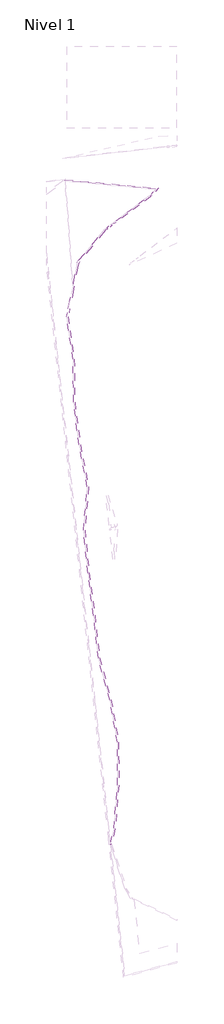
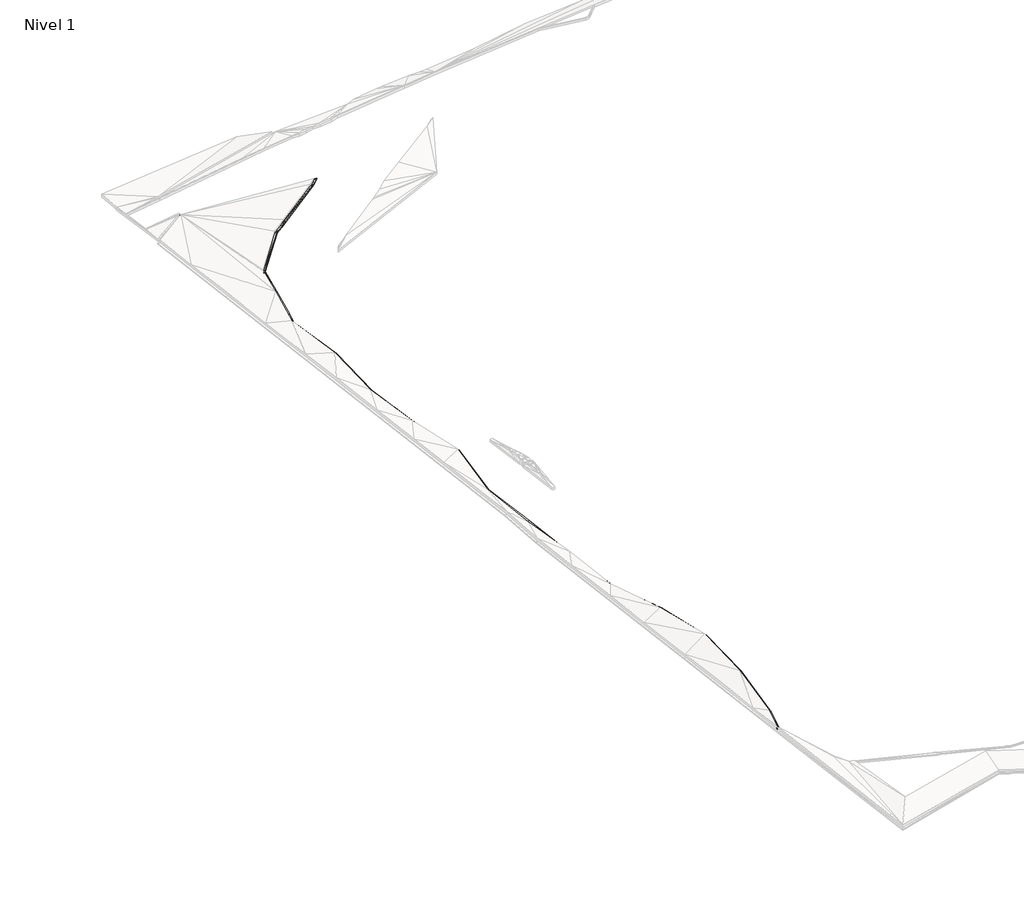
# One storey, part 14 of 45: 1 slab.
"""IFC4 building model written with IfcOpenShell, lengths in millimetres."""

from ifc_helpers import new_model, si_unit, frame, origin, place, context, project, spatial, element, save
from ifc_brep_helpers import plane_surface, spline_surface, advanced_brep

model = new_model("IFC4")

# Units and contexts
model_context = context("Model", 3, world=origin())
ifc_project = project(units=[si_unit("LENGTHUNIT", "METRE", prefix="MILLI")], contexts=[model_context])

# Site, building, storey
site = spatial("IfcSite", under=ifc_project)
building = spatial("IfcBuilding", under=site)
storey = spatial("IfcBuildingStorey", under=building, Name="Nivel 1", Elevation=0.0)

# Slab
placement = place(None, origin())
element("IfcSlab", 1, ObjectType="Tierra de Chacra (20cm)", at=placement, inside=storey, context=model_context, shape_type="AdvancedBrep", body=[
    advanced_brep(
    [(-294089.6348993, -259022.6133777, 2765.2), (-294089.6348993, -259022.6133777, 2965.2), (-293231.2547991, -248895.168533, 3725.5), (-293231.2547991, -248895.168533, 3525.5), (-293270.7451273, -238875.2907751, 4041.8), (-293270.7451273, -238875.2907751, 3841.8), (-295040.61102, -229051.5675465, 3450.0), (-295040.61102, -229051.5675465, 3250.0), (-297719.9239631, -219281.1373038, 2552.5), (-297719.9239631, -219281.1373038, 2352.5), (-298844.3020353, -209323.8130337, 2548.5), (-298844.3020353, -209323.8130337, 2348.5), (-300146.8998808, -199406.0217509, 2796.3999992), (-300146.8998808, -199406.0217509, 2596.3999992), (-301181.6716311, -189426.5161133, 2526.05), (-301181.6716311, -189426.5161133, 2326.05), (-300307.0572754, -179277.2152195, 3200.0299966), (-300307.0572754, -179277.2152195, 3000.0299966), (-302231.9823922, -169463.731782, 2929.9807207), (-302231.9823922, -169463.731782, 2729.9807207), (-303513.4155731, -159517.8640647, 2870.0226516), (-303513.4155731, -159517.8640647, 2670.0226516), (-303659.8281486, -149473.2817741, 3396.8408869), (-303659.8281486, -149473.2817741, 3196.8408869), (-305121.3673077, -139539.3314468, 3495.0241063), (-305121.3673077, -139539.3314468, 3295.0241063), (-304751.7547744, -137695.145096, 3565.9344781), (-303683.7877777, -132366.510428, 3770.8064034), (-303683.7877777, -132366.510428, 3570.8064034), (-304751.7547744, -137695.145096, 3365.9344781), (-302651.7308553, -127032.6029541, 3751.5584312), (-302651.7308553, -127032.6029541, 3551.5584312), (-302409.8709224, -126558.4331392, 3707.294116), (-302409.8709224, -126558.4331392, 3507.294116), (-296264.7635424, -119203.9218633, 3948.8429853), (-296264.7635424, -119203.9218633, 3748.8429853), (-295692.5218006, -118778.3666014, 3932.7193339), (-294664.3926281, -118013.7845249, 3880.2098941), (-293766.2190525, -117345.8456746, 3968.4995806), (-293766.2190525, -117345.8456746, 3768.4995806), (-294664.3926281, -118013.7845249, 3680.2098941), (-295692.5218006, -118778.3666014, 3732.7193339), (-285767.6830926, -111323.0164437, 3814.3395128), (-285767.6830926, -111323.0164437, 3614.3395128), (-285382.5147654, -111081.3417336, 3750.0369995), (-285382.5147654, -111081.3417336, 3550.0369995), (-284279.1112514, -109828.1488376, 3394.5278154), (-284279.1112514, -109828.1488376, 3194.5278154), (-305462.4622764, -107864.1947353, 3245.0528565), (-305462.4622764, -107864.1947353, 3045.0528565), (-305496.8397972, -107559.7209478, 3229.1235718), (-305496.8397972, -107559.7209478, 3029.1235718), (-283664.3092514, -109583.8618832, 3390.0721846), (-283664.3092514, -109583.8618832, 3190.0721846), (-285186.1523809, -111312.298465, 3930.9630005), (-285186.1523809, -111312.298465, 3730.9630005), (-285597.4223468, -111570.350706, 3918.8604872), (-285597.4223468, -111570.350706, 3718.8604872), (-293586.2677584, -117585.8830357, 3968.5004194), (-293586.2677584, -117585.8830357, 3768.5004194), (-294484.2033743, -118256.0839902, 3949.9901059), (-294484.2033743, -118256.0839902, 3749.9901059), (-295519.5183128, -119011.003408, 3950.6806661), (-295519.5183128, -119011.003408, 3750.6806661), (-296073.4049841, -119435.2413512, 3938.1570147), (-296073.4049841, -119435.2413512, 3738.1570147), (-302157.9500959, -126724.7852752, 3855.705884), (-302157.9500959, -126724.7852752, 3655.705884), (-302365.2406054, -127131.181247, 3845.8415688), (-302365.2406054, -127131.181247, 3645.8415688), (-303389.2506063, -132423.5003792, 3767.9935966), (-304422.0461887, -137761.2254167, 3689.4655219), (-304422.0461887, -137761.2254167, 3489.4655219), (-303389.2506063, -132423.5003792, 3567.9935966), (-304816.5456986, -139550.1527893, 3493.3758937), (-304816.5456986, -139550.1527893, 3293.3758937), (-303360.1479205, -149449.1576119, 3404.7591131), (-303360.1479205, -149449.1576119, 3204.7591131), (-303213.6959703, -159496.4411849, 2874.5773484), (-303213.6959703, -159496.4411849, 2674.5773484), (-301935.6988328, -169415.6399885, 2925.6192793), (-301935.6988328, -169415.6399885, 2725.6192793), (-300004.53984, -179260.9044215, 3196.1700034), (-300004.53984, -179260.9044215, 2996.1700034), (-300880.334397, -189423.9007434, 2524.95), (-300880.334397, -189423.9007434, 2324.95), (-299848.9216554, -199371.0115621, 2793.7330751), (-299848.9216554, -199371.0115621, 2593.7330751), (-298546.5020334, -209287.4458762, 2553.2), (-298546.5020334, -209287.4458762, 2353.2), (-297424.4359825, -219224.2952319, 2552.4), (-297424.4359825, -219224.2952319, 2352.4), (-294747.7435879, -228985.1693338, 3448.0), (-294747.7435879, -228985.1693338, 3248.0), (-292970.8507661, -238847.8958601, 4041.7), (-292970.8507661, -238847.8958601, 3841.7), (-292931.2047777, -248907.2692855, 3725.5), (-292931.2047777, -248907.2692855, 3525.5), (-293792.4586384, -259068.619681, 2965.2), (-293792.4586384, -259068.619681, 2765.2), (-294610.7649881, -262683.3469266, 2700.0), (-294610.7649881, -262683.3469266, 2500.0), (-294891.1329312, -262791.0925905, 2700.0), (-294891.1329312, -262791.0925905, 2500.0), (-294907.8505448, -262636.9399536, 2700.0), (-294907.8505448, -262636.9399536, 2500.0)],
    [
        (0, 1),
        (1, 2),
        (2, 3),
        (3, 0),
        (2, 4),
        (4, 5),
        (5, 3),
        (4, 6),
        (6, 7),
        (7, 5),
        (6, 8),
        (8, 9),
        (9, 7),
        (8, 10),
        (10, 11),
        (11, 9),
        (10, 12),
        (12, 13),
        (13, 11),
        (12, 14),
        (14, 15),
        (15, 13),
        (14, 16),
        (16, 17),
        (17, 15),
        (16, 18),
        (18, 19),
        (19, 17),
        (18, 20),
        (20, 21),
        (21, 19),
        (20, 22),
        (22, 23),
        (23, 21),
        (22, 24),
        (24, 25),
        (25, 23),
        (24, 26),
        (26, 27),
        (27, 28),
        (28, 29),
        (29, 25),
        (27, 30),
        (30, 31),
        (31, 28),
        (30, 32),
        (32, 33),
        (33, 31),
        (32, 34),
        (34, 35),
        (35, 33),
        (34, 36),
        (36, 37),
        (37, 38),
        (38, 39),
        (39, 40),
        (40, 41),
        (41, 35),
        (38, 42),
        (42, 43),
        (43, 39),
        (42, 44),
        (44, 45),
        (45, 43),
        (44, 46),
        (46, 47),
        (47, 45),
        (46, 48),
        (48, 49),
        (49, 47),
        (48, 50),
        (50, 51),
        (51, 49),
        (50, 52),
        (52, 53),
        (53, 51),
        (52, 54),
        (54, 55),
        (55, 53),
        (54, 56),
        (56, 57),
        (57, 55),
        (56, 58),
        (58, 59),
        (59, 57),
        (58, 60),
        (60, 61),
        (61, 59),
        (60, 62),
        (62, 63),
        (63, 61),
        (62, 64),
        (64, 65),
        (65, 63),
        (64, 66),
        (66, 67),
        (67, 65),
        (66, 68),
        (68, 69),
        (69, 67),
        (68, 70),
        (70, 71),
        (71, 72),
        (72, 73),
        (73, 69),
        (71, 74),
        (74, 75),
        (75, 72),
        (74, 76),
        (76, 77),
        (77, 75),
        (76, 78),
        (78, 79),
        (79, 77),
        (78, 80),
        (80, 81),
        (81, 79),
        (80, 82),
        (82, 83),
        (83, 81),
        (82, 84),
        (84, 85),
        (85, 83),
        (84, 86),
        (86, 87),
        (87, 85),
        (86, 88),
        (88, 89),
        (89, 87),
        (88, 90),
        (90, 91),
        (91, 89),
        (90, 92),
        (92, 93),
        (93, 91),
        (92, 94),
        (94, 95),
        (95, 93),
        (94, 96),
        (96, 97),
        (97, 95),
        (96, 98),
        (98, 99),
        (99, 97),
        (98, 100),
        (100, 101),
        (101, 99),
        (100, 102),
        (102, 103),
        (103, 101),
        (102, 104),
        (104, 105),
        (105, 103),
        (104, 1),
        (0, 105),
        (100, 104),
        (105, 101),
        (100, 1),
        (98, 1),
        (96, 1),
        (0, 101),
        (0, 99),
        (0, 97),
        (96, 2),
        (94, 4),
        (4, 96),
        (3, 97),
        (97, 5),
        (5, 95),
        (92, 4),
        (5, 93),
        (92, 6),
        (90, 6),
        (7, 93),
        (7, 91),
        (90, 8),
        (88, 10),
        (10, 90),
        (9, 91),
        (91, 11),
        (11, 89),
        (86, 10),
        (11, 87),
        (86, 12),
        (84, 12),
        (13, 87),
        (13, 85),
        (84, 14),
        (82, 16),
        (16, 84),
        (15, 85),
        (85, 17),
        (17, 83),
        (80, 16),
        (17, 81),
        (80, 18),
        (78, 18),
        (19, 81),
        (19, 79),
        (78, 20),
        (76, 22),
        (22, 78),
        (21, 79),
        (79, 23),
        (23, 77),
        (74, 22),
        (23, 75),
        (74, 24),
        (71, 26),
        (26, 74),
        (25, 75),
        (75, 29),
        (29, 72),
        (70, 27),
        (66, 32),
        (32, 68),
        (28, 73),
        (69, 33),
        (33, 67),
        (68, 27),
        (68, 30),
        (28, 69),
        (31, 69),
        (64, 32),
        (33, 65),
        (64, 34),
        (62, 36),
        (36, 64),
        (35, 65),
        (65, 41),
        (41, 63),
        (60, 38),
        (37, 60),
        (58, 38),
        (61, 40),
        (39, 61),
        (39, 59),
        (56, 38),
        (39, 57),
        (56, 42),
        (54, 44),
        (44, 56),
        (43, 57),
        (57, 45),
        (45, 55),
        (52, 46),
        (46, 54),
        (55, 47),
        (47, 53),
        (50, 46),
        (47, 51),
    ],
    [
        plane_surface(frame((-294089.6348993, -259022.6133777, 4050.0), z_axis=(-0.9964272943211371, 0.08445500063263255, 0.0), x_axis=(0.0, 0.0, 1.0))),
        plane_surface(frame((-293231.2547991, -248895.168533, 4050.0), z_axis=(-0.9999922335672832, -0.003941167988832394, 0.0), x_axis=(0.0, 0.0, 1.0))),
        plane_surface(frame((-293270.7451273, -238875.2907751, 4050.0), z_axis=(-0.984155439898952, -0.177307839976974, 0.0), x_axis=(0.0, 0.0, 1.0))),
        plane_surface(frame((-295040.61102, -229051.5675465, 4050.0), z_axis=(-0.9643958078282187, -0.26446308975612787, 0.0), x_axis=(0.0, 0.0, 1.0))),
        plane_surface(frame((-297719.9239631, -219281.1373038, 4050.0), z_axis=(-0.9936848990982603, -0.11220660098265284, 0.0), x_axis=(0.0, 0.0, 1.0))),
        plane_surface(frame((-298844.3020353, -209323.8130337, 4050.0), z_axis=(-0.9914849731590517, -0.13022115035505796, 0.0), x_axis=(0.0, 0.0, 1.0))),
        plane_surface(frame((-300146.8998808, -199406.0217509, 4050.0), z_axis=(-0.9946671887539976, -0.10313672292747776, 0.0), x_axis=(0.0, 0.0, 1.0))),
        plane_surface(frame((-301181.6716311, -189426.5161133, 4050.0), z_axis=(-0.996307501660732, 0.0858566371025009, 0.0), x_axis=(0.0, 0.0, 1.0))),
        plane_surface(frame((-300307.0572754, -179277.2152195, 4050.0), z_axis=(-0.981300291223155, -0.19248308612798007, 0.0), x_axis=(0.0, 0.0, 1.0))),
        plane_surface(frame((-302231.9823922, -169463.731782, 4050.0), z_axis=(-0.9918019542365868, -0.1277845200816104, 0.0), x_axis=(0.0, 0.0, 1.0))),
        plane_surface(frame((-303513.4155731, -159517.8640647, 4050.0), z_axis=(-0.9998937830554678, -0.014574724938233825, 0.0), x_axis=(0.0, 0.0, 1.0))),
        plane_surface(frame((-303659.8281486, -149473.2817741, 4050.0), z_axis=(-0.9893496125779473, -0.14555873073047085, 0.0), x_axis=(0.0, 0.0, 1.0))),
        plane_surface(frame((-305121.3673077, -139539.3314468, 4050.0), z_axis=(-0.9805013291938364, 0.19651245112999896, 0.0), x_axis=(0.0, 0.0, 1.0))),
        plane_surface(frame((-303683.7877777, -132366.510428, 4050.0), z_axis=(-0.9817905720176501, 0.18996650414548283, 0.0), x_axis=(0.0, 0.0, 1.0))),
        plane_surface(frame((-302651.7308553, -127032.6029541, 4050.0), z_axis=(-0.890810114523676, 0.4543757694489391, 0.0), x_axis=(0.0, 0.0, 1.0))),
        plane_surface(frame((-302409.8709224, -126558.4331392, 4050.0), z_axis=(-0.7673817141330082, 0.6411905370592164, 0.0), x_axis=(0.0, 0.0, 1.0))),
        plane_surface(frame((-296264.7635424, -119203.9218633, 4050.0), z_axis=(-0.596740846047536, 0.8024340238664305, 0.0), x_axis=(0.0, 0.0, 1.0))),
        plane_surface(frame((-293766.2190525, -117345.8456746, 4050.0), z_axis=(-0.6015283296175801, 0.7988514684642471, 0.0), x_axis=(0.0, 0.0, 1.0))),
        plane_surface(frame((-285767.6830926, -111323.0164437, 4050.0), z_axis=(-0.5314918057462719, 0.8470634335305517, 0.0), x_axis=(0.0, 0.0, 1.0))),
        plane_surface(frame((-285382.5147654, -111081.3417336, 4050.0), z_axis=(-0.7505371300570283, 0.6608282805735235, 0.0), x_axis=(0.0, 0.0, 1.0))),
        plane_surface(frame((-284279.1112514, -109828.1488376, 4050.0), z_axis=(-0.09231624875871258, -0.9957297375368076, 0.0), x_axis=(0.0, 0.0, 1.0))),
        plane_surface(frame((-305462.4622764, -107864.1947353, 4050.0), z_axis=(-0.9936861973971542, -0.11219510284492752, 0.0), x_axis=(0.0, 0.0, 1.0))),
        plane_surface(frame((-305496.8397972, -107559.7209478, 4050.0), z_axis=(0.09231624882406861, 0.9957297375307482, 0.0), x_axis=(0.0, 0.0, 1.0))),
        plane_surface(frame((-283664.3092514, -109583.8618832, 4050.0), z_axis=(0.7505371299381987, -0.6608282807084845, 0.0), x_axis=(0.0, 0.0, 1.0))),
        plane_surface(frame((-285186.1523809, -111312.298465, 4050.0), z_axis=(0.5314918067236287, -0.8470634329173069, 0.0), x_axis=(0.0, 0.0, 1.0))),
        plane_surface(frame((-285597.4223468, -111570.350706, 4050.0), z_axis=(0.6015283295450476, -0.7988514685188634, 0.0), x_axis=(0.0, 0.0, 1.0))),
        plane_surface(frame((-293586.2677584, -117585.8830357, 4050.0), z_axis=(0.5981415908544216, -0.8013904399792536, 0.0), x_axis=(0.0, 0.0, 1.0))),
        plane_surface(frame((-294484.2033743, -118256.0839902, 4050.0), z_axis=(0.589173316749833, -0.8080066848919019, 0.0), x_axis=(0.0, 0.0, 1.0))),
        plane_surface(frame((-295519.5183128, -119011.003408, 4050.0), z_axis=(0.6080627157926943, -0.7938889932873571, 0.0), x_axis=(0.0, 0.0, 1.0))),
        plane_surface(frame((-296073.4049841, -119435.2413512, 4050.0), z_axis=(0.767706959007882, -0.6408010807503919, 0.0), x_axis=(0.0, 0.0, 1.0))),
        plane_surface(frame((-302157.9500959, -126724.7852752, 4050.0), z_axis=(0.8908101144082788, -0.45437576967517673, 0.0), x_axis=(0.0, 0.0, 1.0))),
        plane_surface(frame((-302365.2406054, -127131.181247, 4050.0), z_axis=(0.9817905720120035, -0.1899665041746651, 0.0), x_axis=(0.0, 0.0, 1.0))),
        plane_surface(frame((-304422.0461887, -137761.2254167, 4050.0), z_axis=(0.9765371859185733, -0.21534884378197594, 0.0), x_axis=(0.0, 0.0, 1.0))),
        plane_surface(frame((-304816.5456986, -139550.1527893, 4050.0), z_axis=(0.9893496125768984, 0.1455587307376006, 0.0), x_axis=(0.0, 0.0, 1.0))),
        plane_surface(frame((-303360.1479205, -149449.1576119, 4050.0), z_axis=(0.9998937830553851, 0.014574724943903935, 0.0), x_axis=(0.0, 0.0, 1.0))),
        plane_surface(frame((-303213.6959703, -159496.4411849, 4050.0), z_axis=(0.9918019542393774, 0.12778452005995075, 0.0), x_axis=(0.0, 0.0, 1.0))),
        plane_surface(frame((-301935.6988328, -169415.6399885, 4050.0), z_axis=(0.9813002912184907, 0.19248308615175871, 0.0), x_axis=(0.0, 0.0, 1.0))),
        plane_surface(frame((-300004.53984, -179260.9044215, 4050.0), z_axis=(0.9963075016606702, -0.0858566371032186, 0.0), x_axis=(0.0, 0.0, 1.0))),
        plane_surface(frame((-300880.334397, -189423.9007434, 4050.0), z_axis=(0.9946671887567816, 0.1031367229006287, 0.0), x_axis=(0.0, 0.0, 1.0))),
        plane_surface(frame((-299848.9216554, -199371.0115621, 4050.0), z_axis=(0.9914849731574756, 0.13022115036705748, 0.0), x_axis=(0.0, 0.0, 1.0))),
        plane_surface(frame((-298546.5020334, -209287.4458762, 4050.0), z_axis=(0.9936848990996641, 0.11220660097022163, 0.0), x_axis=(0.0, 0.0, 1.0))),
        plane_surface(frame((-297424.4359825, -219224.2952319, 4050.0), z_axis=(0.9643958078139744, 0.2644630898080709, 0.0), x_axis=(0.0, 0.0, 1.0))),
        plane_surface(frame((-294747.7435879, -228985.1693338, 4050.0), z_axis=(0.984155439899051, 0.17730783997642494, 0.0), x_axis=(0.0, 0.0, 1.0))),
        plane_surface(frame((-292970.8507661, -238847.8958601, 4050.0), z_axis=(0.9999922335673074, 0.003941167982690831, 0.0), x_axis=(0.0, 0.0, 1.0))),
        plane_surface(frame((-292931.2047777, -248907.2692855, 4050.0), z_axis=(0.9964272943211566, -0.08445500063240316, 0.0), x_axis=(0.0, 0.0, 1.0))),
        plane_surface(frame((-293792.4586384, -259068.619681, 4050.0), z_axis=(0.9753204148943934, -0.22079422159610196, 0.0), x_axis=(0.0, 0.0, 1.0))),
        plane_surface(frame((-294610.7649881, -262683.3469266, 4050.0), z_axis=(0.3587233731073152, -0.9334439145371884, 0.0), x_axis=(0.0, 0.0, 1.0))),
        plane_surface(frame((-294891.1329312, -262791.0925905, 4050.0), z_axis=(-0.9941708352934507, -0.10781628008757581, 0.0), x_axis=(0.0, 0.0, 1.0))),
        plane_surface(frame((-294907.8505448, -262636.9399536, 4050.0), z_axis=(-0.9753204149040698, 0.22079422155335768, 0.0), x_axis=(0.0, 0.0, 1.0))),
        plane_surface(frame((-294803.249488, -262703.7931569, 2700.0), z_axis=(0.0, 0.0, 1.0000000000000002), x_axis=(0.10781628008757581, -0.9941708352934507, 0.0))),
        plane_surface(frame((-294803.249488, -262703.7931569, 2500.0), z_axis=(0.0, 0.0, -1.0000000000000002), x_axis=(0.10781628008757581, -0.9941708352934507, 0.0))),
        plane_surface(frame((-294536.0834774, -261447.6334193, 2788.4), z_axis=(-0.011041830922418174, -0.07068697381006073, 0.9974374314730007), x_axis=(0.9880184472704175, -0.15433582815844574, 0.0))),
        plane_surface(frame((-294164.2861753, -260258.1933284, 2876.8), z_axis=(-0.010945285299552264, -0.07070072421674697, 0.9974375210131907), x_axis=(0.2202311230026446, 0.9728330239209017, 0.07137338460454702))),
        plane_surface(frame((-293604.4327718, -255666.167448, 3218.6333333), z_axis=(-0.011401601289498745, -0.07364828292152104, 0.997219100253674), x_axis=(0.08422125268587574, 0.9936694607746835, 0.07434906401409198))),
        plane_surface(frame((-294536.0834774, -261447.6334193, 2588.4), z_axis=(0.011041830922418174, 0.07068697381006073, -0.9974374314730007), x_axis=(0.9880184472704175, -0.15433582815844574, 0.0))),
        plane_surface(frame((-294164.2861753, -260258.1933284, 2676.8), z_axis=(0.010945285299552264, 0.07070072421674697, -0.9974375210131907), x_axis=(0.2202311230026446, 0.9728330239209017, 0.07137338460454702))),
        plane_surface(frame((-293604.4327718, -255666.167448, 3018.6333333), z_axis=(0.011401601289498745, 0.07364828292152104, -0.997219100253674), x_axis=(0.08422125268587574, 0.9936694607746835, 0.07434906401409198))),
        plane_surface(frame((-293417.3648254, -252275.0170654, 3472.0666667), z_axis=(-0.0030088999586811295, -0.07460862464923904, 0.9972083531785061), x_axis=(-0.9991877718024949, 0.04029636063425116, 0.0))),
        plane_surface(frame((-293057.6002237, -242210.1519736, 3936.3333333), z_axis=(0.003202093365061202, -0.03140508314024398, 0.9995016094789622), x_axis=(-0.0039392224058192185, 0.9994985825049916, 0.031417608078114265))),
        plane_surface(frame((-293417.3648254, -252275.0170654, 3272.0666667), z_axis=(0.0030088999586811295, 0.07460862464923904, -0.9972083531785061), x_axis=(-0.9991877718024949, 0.04029636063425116, 0.0))),
        plane_surface(frame((-293057.6002237, -242210.1519736, 3736.3333333), z_axis=(-0.003202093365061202, 0.03140508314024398, -0.9995016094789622), x_axis=(-0.0039392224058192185, 0.9994985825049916, 0.031417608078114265))),
        plane_surface(frame((-293144.401568, -245559.2428645, 3830.9333333), z_axis=(-0.0012726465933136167, -0.03155652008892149, 0.9995011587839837), x_axis=(-0.03380965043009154, 0.998931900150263, 0.03149549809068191))),
        plane_surface(frame((-293663.1131604, -235569.4519897, 3843.8333333), z_axis=(-0.00507279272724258, 0.059176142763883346, 0.9982346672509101), x_axis=(-0.17699750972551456, 0.9824329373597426, -0.05913886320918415))),
        plane_surface(frame((-293144.401568, -245559.2428645, 3630.9333333), z_axis=(0.0012726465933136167, 0.03155652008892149, -0.9995011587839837), x_axis=(-0.03380965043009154, 0.998931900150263, 0.03149549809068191))),
        plane_surface(frame((-293663.1131604, -235569.4519897, 3643.8333333), z_axis=(0.00507279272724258, -0.059176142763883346, -0.9982346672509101), x_axis=(-0.17699750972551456, 0.9824329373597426, -0.05913886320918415))),
        plane_surface(frame((-294353.0332451, -232304.0092185, 3646.6), z_axis=(-0.006549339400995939, 0.058955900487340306, 0.9982391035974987), x_axis=(-0.9752280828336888, -0.22110140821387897, 0.006659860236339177))),
        plane_surface(frame((-295737.5968635, -225753.6773707, 3150.1333333), z_axis=(-0.01310340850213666, 0.08779853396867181, 0.9960520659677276), x_axis=(-0.2634337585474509, 0.9606422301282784, -0.08814284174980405))),
        plane_surface(frame((-294353.0332451, -232304.0092185, 3446.6), z_axis=(0.006549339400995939, -0.058955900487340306, -0.9982391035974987), x_axis=(-0.9752280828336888, -0.22110140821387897, 0.006659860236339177))),
        plane_surface(frame((-295737.5968635, -225753.6773707, 2950.1333333), z_axis=(0.01310340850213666, -0.08779853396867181, -0.9960520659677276), x_axis=(-0.2634337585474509, 0.9606422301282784, -0.08814284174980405))),
        plane_surface(frame((-296728.3236552, -222519.0000274, 2851.6333333), z_axis=(-0.016399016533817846, 0.08700104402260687, 0.9960732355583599), x_axis=(-0.9819956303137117, -0.18890333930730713, 0.00033233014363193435))),
        plane_surface(frame((-298271.7466838, -212611.8513806, 2551.3666667), z_axis=(-0.015556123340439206, -0.0018370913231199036, 0.9998773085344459), x_axis=(-0.11220660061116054, 0.9936848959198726, 7.999999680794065e-05))),
        plane_surface(frame((-296728.3236552, -222519.0000274, 2651.6333333), z_axis=(0.016399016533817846, -0.08700104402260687, -0.9960732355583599), x_axis=(-0.9819956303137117, -0.18890333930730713, 0.00033233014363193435))),
        plane_surface(frame((-298271.7466838, -212611.8513806, 2351.3666667), z_axis=(0.015556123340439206, 0.0018370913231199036, -0.9998773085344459), x_axis=(-0.11220660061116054, 0.9936848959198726, 7.999999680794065e-05))),
        plane_surface(frame((-297996.2206603, -215943.0818565, 2551.1333333), z_axis=(0.00025559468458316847, 0.0004305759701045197, 0.9999998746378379), x_axis=(-0.14196135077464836, 0.9898721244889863, -0.0003899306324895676))),
        plane_surface(frame((-297996.2206603, -215943.0818565, 2351.1333333), z_axis=(-0.00025559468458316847, -0.0004305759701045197, -0.9999998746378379), x_axis=(-0.14196135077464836, 0.9898721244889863, -0.0003899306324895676))),
        plane_surface(frame((-299079.9085747, -205994.0901573, 2631.811025), z_axis=(-0.012612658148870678, -0.025902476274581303, 0.9995849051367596), x_axis=(-0.13018350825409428, 0.9911983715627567, 0.024042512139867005))),
        plane_surface(frame((-299079.9085747, -205994.0901573, 2431.811025), z_axis=(0.012612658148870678, 0.025902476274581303, -0.9995849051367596), x_axis=(-0.13018350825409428, 0.9911983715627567, 0.024042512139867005))),
        plane_surface(frame((-299613.3745238, -202700.2821156, 2712.8776914), z_axis=(0.01170218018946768, -0.02344994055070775, 0.999656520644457), x_axis=(-0.993129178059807, -0.11668517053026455, 0.00888856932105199))),
        plane_surface(frame((-300292.0519777, -196066.9780188, 2705.0276914), z_axis=(0.005703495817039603, 0.027601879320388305, 0.9996027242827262), x_axis=(-0.10309949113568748, 0.9943081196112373, -0.026867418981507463))),
        plane_surface(frame((-299613.3745238, -202700.2821156, 2512.8776914), z_axis=(-0.01170218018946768, 0.02344994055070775, -0.999656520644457), x_axis=(-0.993129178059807, -0.11668517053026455, 0.00888856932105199))),
        plane_surface(frame((-300292.0519777, -196066.9780188, 2505.0276914), z_axis=(-0.005703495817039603, -0.027601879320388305, -0.9996027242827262), x_axis=(-0.10309949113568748, 0.9943081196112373, -0.026867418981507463))),
        plane_surface(frame((-300736.3019696, -192752.1462025, 2615.7999997), z_axis=(0.0034108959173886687, 0.027433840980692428, 0.9996178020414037), x_axis=(-0.9999556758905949, -0.00867882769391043, 0.0036502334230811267))),
        plane_surface(frame((-300397.3105041, -182654.0067948, 2973.7166667), z_axis=(0.01635735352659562, -0.06729649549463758, 0.9975989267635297), x_axis=(0.08567136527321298, 0.9941575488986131, 0.06565961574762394))),
        plane_surface(frame((-300736.3019696, -192752.1462025, 2415.7999997), z_axis=(-0.0034108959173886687, -0.027433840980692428, -0.9996178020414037), x_axis=(-0.9999556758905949, -0.00867882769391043, 0.0036502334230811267))),
        plane_surface(frame((-300397.3105041, -182654.0067948, 2773.7166667), z_axis=(-0.01635735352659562, 0.06729649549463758, -0.9975989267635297), x_axis=(0.08567136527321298, 0.9941575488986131, 0.06565961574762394))),
        plane_surface(frame((-300789.6877678, -186042.5440254, 2750.3433322), z_axis=(0.004220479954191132, -0.06662211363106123, 0.9977693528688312), x_axis=(0.056284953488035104, 0.9962123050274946, 0.06628006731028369))),
        plane_surface(frame((-300789.6877678, -186042.5440254, 2550.3433322), z_axis=(-0.004220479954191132, 0.06662211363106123, -0.9977693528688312), x_axis=(0.056284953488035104, 0.9962123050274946, 0.06628006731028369))),
        plane_surface(frame((-300749.0986494, -175984.5865432, 3107.2730931), z_axis=(0.01115429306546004, 0.029654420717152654, 0.9994979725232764), x_axis=(-0.19241313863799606, 0.9809436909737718, -0.026956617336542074))),
        plane_surface(frame((-300749.0986494, -175984.5865432, 2907.2730931), z_axis=(-0.01115429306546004, -0.029654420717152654, -0.9994979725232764), x_axis=(-0.19241313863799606, 0.9809436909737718, -0.026956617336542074))),
        plane_surface(frame((-301491.5795001, -172718.86233, 3018.5433322), z_axis=(0.009932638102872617, 0.0294531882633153, 0.9995168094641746), x_axis=(-0.9869771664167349, -0.16020295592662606, 0.014528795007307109))),
        plane_surface(frame((-302460.4590651, -166125.2709852, 2910.0591161), z_axis=(0.013599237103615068, 0.006897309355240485, 0.9998837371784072), x_axis=(-0.12778285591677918, 0.9917890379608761, -0.005103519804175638))),
        plane_surface(frame((-301491.5795001, -172718.86233, 2818.5433322), z_axis=(-0.009932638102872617, -0.0294531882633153, -0.9995168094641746), x_axis=(-0.9869771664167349, -0.16020295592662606, 0.014528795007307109))),
        plane_surface(frame((-302460.4590651, -166125.2709852, 2710.0591161), z_axis=(-0.013599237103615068, -0.006897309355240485, -0.9998837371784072), x_axis=(-0.12778285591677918, 0.9917890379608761, -0.005103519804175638))),
        plane_surface(frame((-302986.3646452, -162826.0123439, 2891.5269069), z_axis=(-0.015482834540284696, 0.004032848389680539, 0.9998720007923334), x_axis=(-0.997340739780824, -0.07128633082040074, -0.015156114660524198))),
        plane_surface(frame((-303411.2240131, -152806.2935236, 3225.3924495), z_axis=(-0.022111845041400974, -0.053003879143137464, 0.9983494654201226), x_axis=(-0.014554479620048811, 0.9985048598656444, 0.05268977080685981))),
        plane_surface(frame((-302986.3646452, -162826.0123439, 2691.5269069), z_axis=(0.015482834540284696, -0.004032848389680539, -0.9998720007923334), x_axis=(-0.997340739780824, -0.07128633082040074, -0.015156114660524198))),
        plane_surface(frame((-303411.2240131, -152806.2935236, 3025.3924495), z_axis=(0.022111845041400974, 0.053003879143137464, -0.9983494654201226), x_axis=(-0.014554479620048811, 0.9985048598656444, 0.05268977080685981))),
        plane_surface(frame((-303462.3132307, -156162.5290079, 3047.1469623), z_axis=(-0.011419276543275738, -0.05253858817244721, 0.9985536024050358), x_axis=(-0.04440598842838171, 0.9976601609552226, 0.05198376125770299))),
        plane_surface(frame((-303462.3132307, -156162.5290079, 2847.1469623), z_axis=(0.011419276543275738, 0.05253858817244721, -0.9985536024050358), x_axis=(-0.04440598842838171, 0.9976601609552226, 0.05198376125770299))),
        plane_surface(frame((-303945.5072559, -146157.5307251, 3431.6586312), z_axis=(-0.025390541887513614, -0.012684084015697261, 0.9995971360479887), x_axis=(-0.14555302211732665, 0.9893108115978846, 0.008856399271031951))),
        plane_surface(frame((-303945.5072559, -146157.5307251, 3231.6586312), z_axis=(0.025390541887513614, 0.012684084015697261, -0.9995971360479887), x_axis=(-0.14555302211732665, 0.9893108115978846, 0.008856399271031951))),
        plane_surface(frame((-304532.580385, -142854.2553367, 3461.7469623), z_axis=(0.005082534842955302, -0.00913529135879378, 0.9999453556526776), x_axis=(-0.9993558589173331, 0.03547770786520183, 0.0054036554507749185))),
        plane_surface(frame((-304663.4488872, -138335.5077673, 3582.9252979), z_axis=(-0.3549897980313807, -0.024156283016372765, 0.9345580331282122), x_axis=(0.21412563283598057, 0.9709903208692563, 0.10643312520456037))),
        plane_surface(frame((-304532.580385, -142854.2553367, 3261.7469623), z_axis=(-0.005082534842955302, 0.00913529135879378, -0.9999453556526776), x_axis=(-0.9993558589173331, 0.03547770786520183, 0.0054036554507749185))),
        plane_surface(frame((-304663.4488872, -138335.5077673, 3382.9252979), z_axis=(0.3549897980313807, 0.024156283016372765, -0.9345580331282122), x_axis=(0.21412563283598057, 0.9709903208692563, 0.10643312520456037))),
        plane_surface(frame((-304896.5559269, -138928.2097773, 3518.1114927), z_axis=(0.004010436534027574, -0.03922463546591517, 0.9992223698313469), x_axis=(0.03487965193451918, 0.998627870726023, 0.03906130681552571))),
        plane_surface(frame((-304896.5559269, -138928.2097773, 3318.1114927), z_axis=(-0.004010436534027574, 0.03922463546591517, -0.9992223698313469), x_axis=(0.03487965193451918, 0.998627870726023, 0.03906130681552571))),
        spline_surface(1, 1, [[(-303389.2506063, -132423.5003792, 3767.9935966), (-304422.0461887, -137761.2254167, 3689.4655219)], [(-303683.7877777, -132366.510428, 3770.8064034), (-304751.7547744, -137695.145096, 3565.9344781)]], [2, 2], [2, 2], [0.0, 1.0], [0.0, 1.0]),
        plane_surface(frame((-302311.0205412, -126804.7998871, 3802.9471896), z_axis=(-0.4052754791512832, 0.18498807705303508, 0.895282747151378), x_axis=(0.45426959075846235, 0.890601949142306, 0.02161728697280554))),
        spline_surface(1, 1, [[(-303389.2506063, -132423.5003792, 3567.9935966), (-303683.7877777, -132366.510428, 3570.8064034)], [(-304422.0461887, -137761.2254167, 3489.4655219), (-304751.7547744, -137695.145096, 3365.9344781)]], [2, 2], [2, 2], [0.0, 1.0], [0.0, 1.0]),
        plane_surface(frame((-302311.0205412, -126804.7998871, 3602.9471896), z_axis=(0.4052754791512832, -0.18498807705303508, -0.895282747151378), x_axis=(0.45426959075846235, 0.890601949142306, 0.02161728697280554))),
        plane_surface(frame((-303146.0929965, -130640.3973514, 3794.8805229), z_axis=(0.006460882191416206, -0.015957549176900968, 0.9998517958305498), x_axis=(-0.24420526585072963, -0.9696239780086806, -0.013897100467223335))),
        plane_surface(frame((-302900.2530795, -128843.431543, 3789.4021345), z_axis=(-0.293289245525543, 0.060191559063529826, 0.9541270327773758), x_axis=(-0.9028806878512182, 0.31067178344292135, -0.2971355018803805))),
        plane_surface(frame((-303146.0929965, -130640.3973514, 3594.8805229), z_axis=(-0.006460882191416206, 0.015957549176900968, -0.9998517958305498), x_axis=(-0.24420526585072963, -0.9696239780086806, -0.013897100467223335))),
        plane_surface(frame((-302900.2530795, -128843.431543, 3589.4021345), z_axis=(0.293289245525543, -0.060191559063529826, -0.9541270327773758), x_axis=(-0.9028806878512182, 0.31067178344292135, -0.2971355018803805))),
        plane_surface(frame((-302475.6141277, -126907.4057801, 3768.231372), z_axis=(-0.23944612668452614, 0.2106117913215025, 0.9477912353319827), x_axis=(-0.07552237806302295, 0.9691909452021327, -0.23444675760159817))),
        plane_surface(frame((-302475.6141277, -126907.4057801, 3568.231372), z_axis=(0.23944612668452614, -0.2106117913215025, -0.9477912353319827), x_axis=(-0.07552237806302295, 0.9691909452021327, -0.23444675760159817))),
        plane_surface(frame((-300213.7420008, -124239.4865885, 3833.7190049), z_axis=(-0.3448505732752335, 0.2777032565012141, 0.896637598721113), x_axis=(0.6407769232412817, 0.7676780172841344, 0.008683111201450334))),
        plane_surface(frame((-300213.7420008, -124239.4865885, 3633.7190049), z_axis=(0.3448505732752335, -0.2777032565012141, -0.896637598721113), x_axis=(0.6407769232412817, 0.7676780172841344, 0.008683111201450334))),
        plane_surface(frame((-298249.346483, -121732.5321179, 3864.7647053), z_axis=(0.008023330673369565, -0.03952085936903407, 0.9991865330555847), x_axis=(-0.6370095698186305, 0.7700346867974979, 0.035572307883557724))),
        plane_surface(frame((-295761.8150325, -119074.8704535, 3940.5190049), z_axis=(-0.05197219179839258, 0.038396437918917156, 0.9979101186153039), x_axis=(0.7937611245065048, 0.6079647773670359, 0.01794733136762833))),
        plane_surface(frame((-298249.346483, -121732.5321179, 3664.7647053), z_axis=(-0.008023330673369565, 0.03952085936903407, -0.9991865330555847), x_axis=(-0.6370095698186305, 0.7700346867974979, 0.035572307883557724))),
        plane_surface(frame((-295761.8150325, -119074.8704535, 3740.5190049), z_axis=(0.05197219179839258, -0.038396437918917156, -0.9979101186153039), x_axis=(0.7937611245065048, 0.6079647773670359, 0.01794733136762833))),
        plane_surface(frame((-294304.9383517, -117871.9047299, 3932.8998602), z_axis=(-0.1954554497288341, 0.13441841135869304, 0.9714570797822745), x_axis=(0.619233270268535, 0.785044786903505, 0.015963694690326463))),
        spline_surface(1, 1, [[(-294484.2033743, -118256.0839902, 3949.9901059), (-295519.5183128, -119011.003408, 3950.6806661)], [(-294664.3926281, -118013.7845249, 3880.2098941), (-295692.5218006, -118778.3666014, 3932.7193339)]], [2, 2], [2, 2], [0.0, 1.0], [0.0, 1.0]),
        plane_surface(frame((-293945.5633951, -117729.2709001, 3962.3300353), z_axis=(-0.013218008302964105, -0.009905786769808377, 0.9998635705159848), x_axis=(0.8012811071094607, 0.5980599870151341, 0.01651784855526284))),
        plane_surface(frame((-294304.9383517, -117871.9047299, 3732.8998602), z_axis=(0.1954554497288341, -0.13441841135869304, -0.9714570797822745), x_axis=(0.619233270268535, 0.785044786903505, 0.015963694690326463))),
        spline_surface(1, 1, [[(-294484.2033743, -118256.0839902, 3749.9901059), (-294664.3926281, -118013.7845249, 3680.2098941)], [(-295519.5183128, -119011.003408, 3750.6806661), (-295692.5218006, -118778.3666014, 3732.7193339)]], [2, 2], [2, 2], [0.0, 1.0], [0.0, 1.0]),
        plane_surface(frame((-293945.5633951, -117729.2709001, 3762.3300353), z_axis=(0.013218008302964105, 0.009905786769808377, -0.9998635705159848), x_axis=(0.8012811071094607, 0.5980599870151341, 0.01651784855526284))),
        plane_surface(frame((-296010.230109, -119139.1766053, 3939.9064446), z_axis=(0.03868098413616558, -0.014157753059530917, 0.9991513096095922), x_axis=(0.5016025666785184, 0.8650685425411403, -0.007161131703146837))),
        plane_surface(frame((-296010.230109, -119139.1766053, 3739.9064446), z_axis=(-0.03868098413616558, 0.014157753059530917, -0.9991513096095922), x_axis=(0.5016025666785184, 0.8650685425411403, -0.007161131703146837))),
        plane_surface(frame((-290983.3030526, -115500.6931388, 3951.9534957), z_axis=(0.003969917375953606, 0.0029796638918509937, 0.9999876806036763), x_axis=(0.798841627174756, 0.6015209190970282, -0.004963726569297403))),
        plane_surface(frame((-290983.3030526, -115500.6931388, 3751.9534957), z_axis=(-0.003969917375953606, -0.0029796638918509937, -0.9999876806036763), x_axis=(0.798841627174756, 0.6015209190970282, -0.004963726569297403))),
        plane_surface(frame((-288377.108164, -113413.0709414, 3900.5665269), z_axis=(-0.185937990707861, 0.27110573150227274, 0.9444197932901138), x_axis=(-0.5355075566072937, 0.7779207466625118, -0.32874149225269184))),
        plane_surface(frame((-285388.6964977, -111321.3303015, 3866.6201624), z_axis=(-0.29131437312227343, 0.4240651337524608, 0.8574990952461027), x_axis=(0.8468003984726, 0.5313267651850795, 0.024918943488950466))),
        plane_surface(frame((-288377.108164, -113413.0709414, 3700.5665269), z_axis=(0.185937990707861, -0.27110573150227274, -0.9444197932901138), x_axis=(-0.5355075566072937, 0.7779207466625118, -0.32874149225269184))),
        plane_surface(frame((-285388.6964977, -111321.3303015, 3666.6201624), z_axis=(0.29131437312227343, -0.4240651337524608, -0.8574990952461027), x_axis=(0.8468003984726, 0.5313267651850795, 0.024918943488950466))),
        plane_surface(frame((-285582.5400683, -111324.9029611, 3827.7456665), z_axis=(-0.06407802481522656, 0.3507108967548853, 0.9342889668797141), x_axis=(0.38363119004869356, 0.8729291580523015, -0.3013665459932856))),
        plane_surface(frame((-285582.5400683, -111324.9029611, 3627.7456665), z_axis=(0.06407802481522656, -0.3507108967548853, -0.9342889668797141), x_axis=(0.38363119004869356, 0.8729291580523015, -0.3013665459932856))),
        plane_surface(frame((-284376.5242946, -110241.4363953, 3571.8543335), z_axis=(-0.16078519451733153, 0.420934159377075, 0.8927275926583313), x_axis=(0.6433223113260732, 0.7306546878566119, -0.22864848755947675))),
        plane_surface(frame((-284376.5242946, -110241.4363953, 3371.8543335), z_axis=(0.16078519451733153, -0.420934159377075, -0.8927275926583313), x_axis=(0.6433223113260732, 0.7306546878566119, -0.22864848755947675))),
        plane_surface(frame((-284949.2594659, -110740.5963454, 3691.8426051), z_axis=(-0.24643245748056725, 0.4591056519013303, 0.8535180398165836), x_axis=(0.4983150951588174, 0.8153700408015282, -0.2947096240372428))),
        plane_surface(frame((-284949.2594659, -110740.5963454, 3491.8426051), z_axis=(0.24643245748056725, -0.4591056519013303, -0.8535180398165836), x_axis=(0.4983150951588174, 0.8153700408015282, -0.2947096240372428))),
        plane_surface(frame((-291146.7534333, -108990.5772229, 3337.9078573), z_axis=(-0.004604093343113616, 0.02981824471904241, 0.9995447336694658), x_axis=(-0.9957029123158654, 0.0923137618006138, -0.007340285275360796))),
        plane_surface(frame((-291146.7534333, -108990.5772229, 3137.9078573), z_axis=(0.004604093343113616, -0.02981824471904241, -0.9995447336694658), x_axis=(-0.9957029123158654, 0.0923137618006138, -0.007340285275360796))),
        plane_surface(frame((-298412.8044417, -108417.3548402, 3289.5680812), z_axis=(-0.002226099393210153, 0.051995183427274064, 0.9986448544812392), x_axis=(0.11204379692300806, -0.9923461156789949, 0.05191699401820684))),
        plane_surface(frame((-298412.8044417, -108417.3548402, 3089.5680812), z_axis=(0.002226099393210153, -0.051995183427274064, -0.9986448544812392), x_axis=(0.11204379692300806, -0.9923461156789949, 0.05191699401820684))),
    ],
    [
        (0, [[1, 2, 3, 4]]),
        (1, [[-3, 5, 6, 7]]),
        (2, [[-6, 8, 9, 10]]),
        (3, [[-9, 11, 12, 13]]),
        (4, [[-12, 14, 15, 16]]),
        (5, [[-15, 17, 18, 19]]),
        (6, [[-18, 20, 21, 22]]),
        (7, [[-21, 23, 24, 25]]),
        (8, [[-24, 26, 27, 28]]),
        (9, [[-27, 29, 30, 31]]),
        (10, [[-30, 32, 33, 34]]),
        (11, [[-33, 35, 36, 37]]),
        (12, [[-36, 38, 39, 40, 41, 42]]),
        (13, [[-40, 43, 44, 45]]),
        (14, [[-44, 46, 47, 48]]),
        (15, [[-47, 49, 50, 51]]),
        (16, [[-50, 52, 53, 54, 55, 56, 57, 58]]),
        (17, [[-55, 59, 60, 61]]),
        (18, [[-60, 62, 63, 64]]),
        (19, [[-63, 65, 66, 67]]),
        (20, [[-66, 68, 69, 70]]),
        (21, [[-69, 71, 72, 73]]),
        (22, [[-72, 74, 75, 76]]),
        (23, [[-75, 77, 78, 79]]),
        (24, [[-78, 80, 81, 82]]),
        (25, [[-81, 83, 84, 85]]),
        (26, [[-84, 86, 87, 88]]),
        (27, [[-87, 89, 90, 91]]),
        (28, [[-90, 92, 93, 94]]),
        (29, [[-93, 95, 96, 97]]),
        (30, [[-96, 98, 99, 100]]),
        (31, [[-99, 101, 102, 103, 104, 105]]),
        (32, [[-103, 106, 107, 108]]),
        (33, [[-107, 109, 110, 111]]),
        (34, [[-110, 112, 113, 114]]),
        (35, [[-113, 115, 116, 117]]),
        (36, [[-116, 118, 119, 120]]),
        (37, [[-119, 121, 122, 123]]),
        (38, [[-122, 124, 125, 126]]),
        (39, [[-125, 127, 128, 129]]),
        (40, [[-128, 130, 131, 132]]),
        (41, [[-131, 133, 134, 135]]),
        (42, [[-134, 136, 137, 138]]),
        (43, [[-137, 139, 140, 141]]),
        (44, [[-140, 142, 143, 144]]),
        (45, [[-143, 145, 146, 147]]),
        (46, [[-146, 148, 149, 150]]),
        (47, [[-149, 151, 152, 153]]),
        (48, [[-152, 154, -1, 155]]),
        (49, [[-151, -148, 156]]),
        (50, [[157, -150, -153]]),
        (51, [[-156, 158, -154]]),
        (52, [[-145, 159, -158]]),
        (53, [[-142, 160, -159]]),
        (54, [[-155, 161, -157]]),
        (55, [[-161, 162, -147]]),
        (56, [[-162, 163, -144]]),
        (57, [[164, -2, -160]]),
        (58, [[-139, 165, 166]]),
        (59, [[-163, -4, 167]]),
        (60, [[168, 169, -141]]),
        (61, [[-166, -5, -164]]),
        (62, [[-136, 170, -165]]),
        (63, [[-167, -7, -168]]),
        (64, [[-169, 171, -138]]),
        (65, [[172, -8, -170]]),
        (66, [[-133, 173, -172]]),
        (67, [[-171, -10, 174]]),
        (68, [[-174, 175, -135]]),
        (69, [[176, -11, -173]]),
        (70, [[-130, 177, 178]]),
        (71, [[-175, -13, 179]]),
        (72, [[180, 181, -132]]),
        (73, [[-178, -14, -176]]),
        (74, [[-179, -16, -180]]),
        (75, [[-127, 182, -177]]),
        (76, [[-181, 183, -129]]),
        (77, [[184, -17, -182]]),
        (78, [[-124, 185, -184]]),
        (79, [[-183, -19, 186]]),
        (80, [[-186, 187, -126]]),
        (81, [[188, -20, -185]]),
        (82, [[-121, 189, 190]]),
        (83, [[-187, -22, 191]]),
        (84, [[192, 193, -123]]),
        (85, [[-190, -23, -188]]),
        (86, [[-191, -25, -192]]),
        (87, [[-118, 194, -189]]),
        (88, [[-193, 195, -120]]),
        (89, [[196, -26, -194]]),
        (90, [[-115, 197, -196]]),
        (91, [[-195, -28, 198]]),
        (92, [[-198, 199, -117]]),
        (93, [[200, -29, -197]]),
        (94, [[-112, 201, 202]]),
        (95, [[-199, -31, 203]]),
        (96, [[204, 205, -114]]),
        (97, [[-202, -32, -200]]),
        (98, [[-203, -34, -204]]),
        (99, [[-109, 206, -201]]),
        (100, [[-205, 207, -111]]),
        (101, [[208, -35, -206]]),
        (102, [[-106, 209, 210]]),
        (103, [[-207, -37, 211]]),
        (104, [[212, 213, -108]]),
        (105, [[-210, -38, -208]]),
        (106, [[-211, -42, -212]]),
        (107, [[-102, 214, -39, -209]]),
        (108, [[-98, 215, 216]]),
        (109, [[-213, -41, 217, -104]]),
        (110, [[218, 219, -100]]),
        (111, [[220, -214, -101]]),
        (112, [[221, -43, -220]]),
        (113, [[-105, -217, 222]]),
        (114, [[-222, -45, 223]]),
        (115, [[-216, -46, -221]]),
        (116, [[-223, -48, -218]]),
        (117, [[-95, 224, -215]]),
        (118, [[-219, 225, -97]]),
        (119, [[226, -49, -224]]),
        (120, [[-92, 227, 228]]),
        (121, [[-225, -51, 229]]),
        (122, [[230, 231, -94]]),
        (123, [[232, -54, 233]]),
        (124, [[-89, -233, -53, -227]]),
        (125, [[-86, 234, -232]]),
        (126, [[235, -56, 236]]),
        (127, [[-231, -57, -235, -91]]),
        (128, [[-236, 237, -88]]),
        (129, [[-228, -52, -226]]),
        (130, [[-229, -58, -230]]),
        (131, [[-83, 238, -234]]),
        (132, [[-237, 239, -85]]),
        (133, [[240, -59, -238]]),
        (134, [[-80, 241, 242]]),
        (135, [[-239, -61, 243]]),
        (136, [[244, 245, -82]]),
        (137, [[-242, -62, -240]]),
        (138, [[-243, -64, -244]]),
        (139, [[-77, 246, 247]]),
        (140, [[248, 249, -79]]),
        (141, [[-247, -65, -241]]),
        (142, [[-245, -67, -248]]),
        (143, [[-74, 250, -246]]),
        (144, [[-249, 251, -76]]),
        (145, [[-71, -68, -250]]),
        (146, [[-251, -70, -73]]),
    ],
),
])

save(model, "model.ifc")
